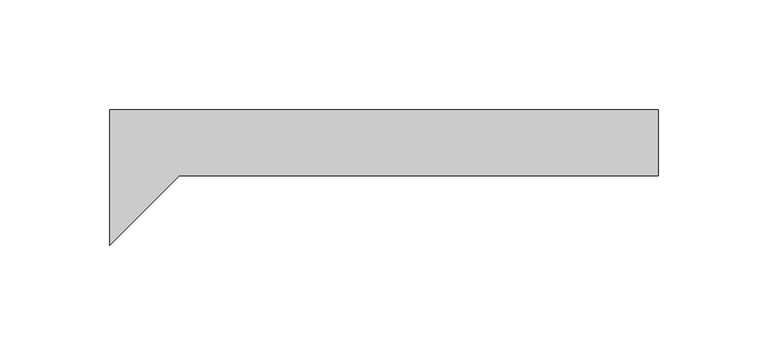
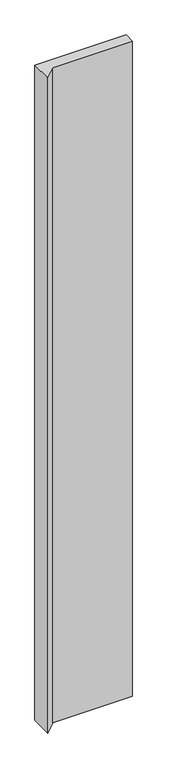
"""IFC4 building model written with IfcOpenShell, lengths in millimetres: plate geometry, ATELIERS 3S_EPURE CDB 250_VERTICAL : AZURO."""

from ifc_helpers import new_model, si_unit, origin, origin_with_axes, place, context, project, spatial, polyline, outline, extrude, source, transform, mapped, element, save


def plate_f28f5a23(model_context):
    return source(origin(), model_context, "Body", "SweptSolid", [
        extrude(outline(polyline([(125.0000002, -29.9980469), (-93.2928847, -29.9980469), (-124.9999998, -61.705162), (-124.9999998, 0.0), (125.0000002, 0.0), (125.0000002, -29.9980469)])), origin_with_axes(), (0.0, 0.0, 1.0), 1900.0),
    ])


if __name__ == "__main__":
    model = new_model("IFC4")
    model_context = context("Model", 3, world=origin())
    ifc_project = project(units=[si_unit("LENGTHUNIT", "METRE", prefix="MILLI")], contexts=[model_context])
    site = spatial("IfcSite", under=ifc_project)
    building = spatial("IfcBuilding", under=site)
    placement = place(None, origin())
    plate_shape = plate_f28f5a23(model_context)
    element("IfcPlate", 1, ObjectType="ATELIERS 3S_EPURE CDB 250_VERTICAL : AZURO", at=placement, inside=building, context=model_context, shape_type="MappedRepresentation", body=[
        mapped(plate_shape, transform((0.0, 0.0, 0.0), x_axis=(1.0, 0.0, 0.0), y_axis=(0.0, 1.0, 0.0), z_axis=(0.0, 0.0, 1.0))),
    ])
    save(model, "model.ifc")
